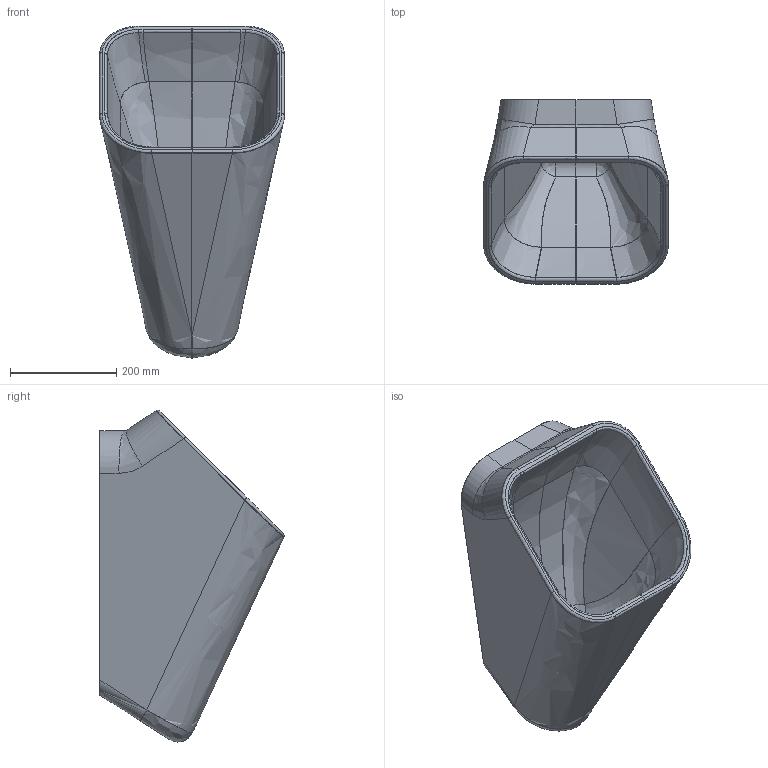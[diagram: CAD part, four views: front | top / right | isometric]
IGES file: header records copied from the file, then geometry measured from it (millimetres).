
Start section: START RECORD GO HERE.
Global section: file name: 5408 orinatoio meg.igs; native system: IBM CATIA IGES - CATIA Version 5 Release 17 ; preprocessor: CATIA Version 5 Release 17 ; author: Luca; organization: PC-Luca; date: 20120504.130242; units: millimetre
Bounding box: 347.81 x 346.76 x 624.98 mm (x, y, z)
Surface area: 1373757 mm2 (no closed solid volume)
Topology: 0 solids, 0 shells, 223 faces, 1049 edges, 1029 vertices
Faces by surface type: bspline 223
